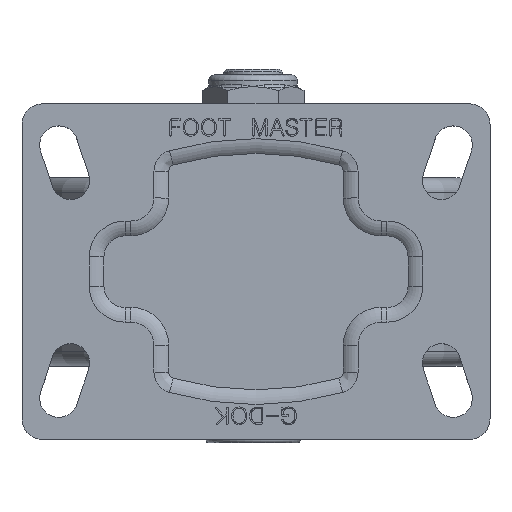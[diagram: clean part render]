
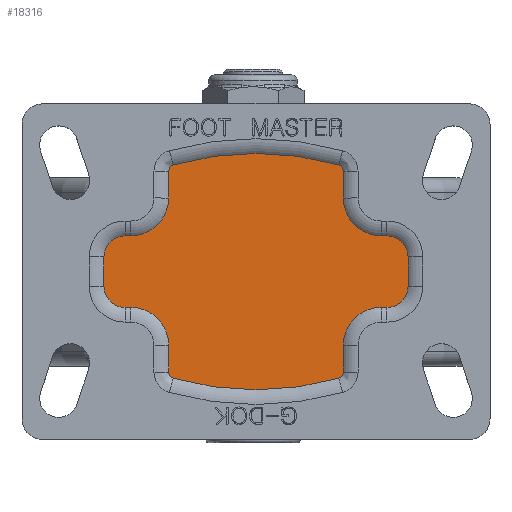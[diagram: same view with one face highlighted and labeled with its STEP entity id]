
A CAD part, top view. The second image highlights one B-rep face of the part: STEP entity #18316.
In plain terms, the highlighted planar face has unit normal (0, 0, 1).
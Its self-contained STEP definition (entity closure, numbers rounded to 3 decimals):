
#1757=LINE('',#34252,#3118);
#1759=LINE('',#34264,#3120);
#1761=LINE('',#34304,#3122);
#1763=LINE('',#34316,#3124);
#1765=LINE('',#34328,#3126);
#1767=LINE('',#34340,#3128);
#1769=LINE('',#34352,#3130);
#1771=LINE('',#34392,#3132);
#1773=LINE('',#34404,#3134);
#1775=LINE('',#34413,#3136);
#3118=VECTOR('',#22824,2.);
#3120=VECTOR('',#22838,9.164);
#3122=VECTOR('',#22864,9.164);
#3124=VECTOR('',#22878,2.);
#3126=VECTOR('',#22892,10.);
#3128=VECTOR('',#22906,2.);
#3130=VECTOR('',#22920,9.164);
#3132=VECTOR('',#22946,9.164);
#3134=VECTOR('',#22960,2.);
#3136=VECTOR('',#22972,10.);
#5353=FACE_OUTER_BOUND('',#6528,.T.);
#6528=EDGE_LOOP('',(#16853,#16854,#16855,#16856,#16857,#16858,#16859,#16860,
#16861,#16862,#16863,#16864,#16865,#16866,#16867,#16868,#16869,#16870,#16871,
#16872,#16873,#16874,#16875,#16876));
#7010=CIRCLE('',#19375,7.162);
#7014=CIRCLE('',#19381,12.838);
#7018=CIRCLE('',#19386,2.162);
#7021=CIRCLE('',#19390,102.662);
#7024=CIRCLE('',#19393,2.162);
#7028=CIRCLE('',#19399,12.838);
#7032=CIRCLE('',#19405,7.162);
#7036=CIRCLE('',#19411,7.162);
#7040=CIRCLE('',#19417,12.838);
#7044=CIRCLE('',#19422,2.162);
#7047=CIRCLE('',#19426,102.662);
#7050=CIRCLE('',#19429,2.162);
#7054=CIRCLE('',#19435,12.838);
#7058=CIRCLE('',#19441,7.162);
#8803=VERTEX_POINT('',#34240);
#8805=VERTEX_POINT('',#34244);
#8807=VERTEX_POINT('',#34250);
#8809=VERTEX_POINT('',#34256);
#8811=VERTEX_POINT('',#34262);
#8813=VERTEX_POINT('',#34276);
#8815=VERTEX_POINT('',#34282);
#8817=VERTEX_POINT('',#34296);
#8819=VERTEX_POINT('',#34302);
#8821=VERTEX_POINT('',#34308);
#8823=VERTEX_POINT('',#34314);
#8825=VERTEX_POINT('',#34320);
#8827=VERTEX_POINT('',#34326);
#8829=VERTEX_POINT('',#34332);
#8831=VERTEX_POINT('',#34338);
#8833=VERTEX_POINT('',#34344);
#8835=VERTEX_POINT('',#34350);
#8837=VERTEX_POINT('',#34364);
#8839=VERTEX_POINT('',#34370);
#8841=VERTEX_POINT('',#34384);
#8843=VERTEX_POINT('',#34390);
#8845=VERTEX_POINT('',#34396);
#8847=VERTEX_POINT('',#34402);
#8849=VERTEX_POINT('',#34408);
#11456=EDGE_CURVE('',#8803,#8805,#7010,.T.);
#11459=EDGE_CURVE('',#8805,#8807,#1757,.T.);
#11462=EDGE_CURVE('',#8807,#8809,#7014,.T.);
#11465=EDGE_CURVE('',#8809,#8811,#1759,.T.);
#11468=EDGE_CURVE('',#8811,#8813,#7018,.T.);
#11471=EDGE_CURVE('',#8813,#8815,#7021,.T.);
#11474=EDGE_CURVE('',#8815,#8817,#7024,.T.);
#11477=EDGE_CURVE('',#8817,#8819,#1761,.T.);
#11480=EDGE_CURVE('',#8819,#8821,#7028,.T.);
#11483=EDGE_CURVE('',#8821,#8823,#1763,.T.);
#11486=EDGE_CURVE('',#8823,#8825,#7032,.T.);
#11489=EDGE_CURVE('',#8825,#8827,#1765,.T.);
#11492=EDGE_CURVE('',#8827,#8829,#7036,.T.);
#11495=EDGE_CURVE('',#8829,#8831,#1767,.T.);
#11498=EDGE_CURVE('',#8831,#8833,#7040,.T.);
#11501=EDGE_CURVE('',#8833,#8835,#1769,.T.);
#11504=EDGE_CURVE('',#8835,#8837,#7044,.T.);
#11507=EDGE_CURVE('',#8837,#8839,#7047,.T.);
#11510=EDGE_CURVE('',#8839,#8841,#7050,.T.);
#11513=EDGE_CURVE('',#8841,#8843,#1771,.T.);
#11516=EDGE_CURVE('',#8843,#8845,#7054,.T.);
#11519=EDGE_CURVE('',#8845,#8847,#1773,.T.);
#11522=EDGE_CURVE('',#8847,#8849,#7058,.T.);
#11524=EDGE_CURVE('',#8849,#8803,#1775,.T.);
#16853=ORIENTED_EDGE('',*,*,#11468,.T.);
#16854=ORIENTED_EDGE('',*,*,#11471,.T.);
#16855=ORIENTED_EDGE('',*,*,#11474,.T.);
#16856=ORIENTED_EDGE('',*,*,#11477,.T.);
#16857=ORIENTED_EDGE('',*,*,#11480,.T.);
#16858=ORIENTED_EDGE('',*,*,#11483,.T.);
#16859=ORIENTED_EDGE('',*,*,#11486,.T.);
#16860=ORIENTED_EDGE('',*,*,#11489,.T.);
#16861=ORIENTED_EDGE('',*,*,#11492,.T.);
#16862=ORIENTED_EDGE('',*,*,#11495,.T.);
#16863=ORIENTED_EDGE('',*,*,#11498,.T.);
#16864=ORIENTED_EDGE('',*,*,#11501,.T.);
#16865=ORIENTED_EDGE('',*,*,#11504,.T.);
#16866=ORIENTED_EDGE('',*,*,#11507,.T.);
#16867=ORIENTED_EDGE('',*,*,#11510,.T.);
#16868=ORIENTED_EDGE('',*,*,#11513,.T.);
#16869=ORIENTED_EDGE('',*,*,#11516,.T.);
#16870=ORIENTED_EDGE('',*,*,#11519,.T.);
#16871=ORIENTED_EDGE('',*,*,#11522,.T.);
#16872=ORIENTED_EDGE('',*,*,#11524,.T.);
#16873=ORIENTED_EDGE('',*,*,#11456,.T.);
#16874=ORIENTED_EDGE('',*,*,#11459,.T.);
#16875=ORIENTED_EDGE('',*,*,#11462,.T.);
#16876=ORIENTED_EDGE('',*,*,#11465,.T.);
#17321=PLANE('',#19457);
#18316=ADVANCED_FACE('',(#5353),#17321,.T.);
#19375=AXIS2_PLACEMENT_3D('',#34246,#22817,#22818);
#19381=AXIS2_PLACEMENT_3D('',#34258,#22831,#22832);
#19386=AXIS2_PLACEMENT_3D('',#34278,#22843,#22844);
#19390=AXIS2_PLACEMENT_3D('',#34284,#22851,#22852);
#19393=AXIS2_PLACEMENT_3D('',#34298,#22857,#22858);
#19399=AXIS2_PLACEMENT_3D('',#34310,#22871,#22872);
#19405=AXIS2_PLACEMENT_3D('',#34322,#22885,#22886);
#19411=AXIS2_PLACEMENT_3D('',#34334,#22899,#22900);
#19417=AXIS2_PLACEMENT_3D('',#34346,#22913,#22914);
#19422=AXIS2_PLACEMENT_3D('',#34366,#22925,#22926);
#19426=AXIS2_PLACEMENT_3D('',#34372,#22933,#22934);
#19429=AXIS2_PLACEMENT_3D('',#34386,#22939,#22940);
#19435=AXIS2_PLACEMENT_3D('',#34398,#22953,#22954);
#19441=AXIS2_PLACEMENT_3D('',#34410,#22967,#22968);
#19457=AXIS2_PLACEMENT_3D('',#34464,#23013,#23014);
#22817=DIRECTION('center_axis',(0.,0.,1.));
#22818=DIRECTION('ref_axis',(1.,0.,0.));
#22824=DIRECTION('',(1.,0.,0.));
#22831=DIRECTION('center_axis',(0.,0.,-1.));
#22832=DIRECTION('ref_axis',(1.,0.,0.));
#22838=DIRECTION('',(0.,-1.,0.));
#22843=DIRECTION('center_axis',(0.,0.,1.));
#22844=DIRECTION('ref_axis',(1.,0.,0.));
#22851=DIRECTION('center_axis',(0.,0.,1.));
#22852=DIRECTION('ref_axis',(1.,0.,0.));
#22857=DIRECTION('center_axis',(0.,0.,1.));
#22858=DIRECTION('ref_axis',(1.,0.,0.));
#22864=DIRECTION('',(0.,1.,0.));
#22871=DIRECTION('center_axis',(0.,0.,-1.));
#22872=DIRECTION('ref_axis',(1.,0.,0.));
#22878=DIRECTION('',(1.,0.,0.));
#22885=DIRECTION('center_axis',(0.,0.,1.));
#22886=DIRECTION('ref_axis',(1.,0.,0.));
#22892=DIRECTION('',(0.,1.,0.));
#22899=DIRECTION('center_axis',(0.,0.,1.));
#22900=DIRECTION('ref_axis',(1.,0.,0.));
#22906=DIRECTION('',(-1.,0.,0.));
#22913=DIRECTION('center_axis',(0.,0.,-1.));
#22914=DIRECTION('ref_axis',(1.,0.,0.));
#22920=DIRECTION('',(0.,1.,0.));
#22925=DIRECTION('center_axis',(0.,0.,1.));
#22926=DIRECTION('ref_axis',(1.,0.,0.));
#22933=DIRECTION('center_axis',(0.,0.,1.));
#22934=DIRECTION('ref_axis',(1.,0.,0.));
#22939=DIRECTION('center_axis',(0.,0.,1.));
#22940=DIRECTION('ref_axis',(1.,0.,0.));
#22946=DIRECTION('',(0.,-1.,0.));
#22953=DIRECTION('center_axis',(0.,0.,-1.));
#22954=DIRECTION('ref_axis',(1.,0.,0.));
#22960=DIRECTION('',(-1.,0.,0.));
#22967=DIRECTION('center_axis',(0.,0.,1.));
#22968=DIRECTION('ref_axis',(1.,0.,0.));
#22972=DIRECTION('',(0.,-1.,0.));
#23013=DIRECTION('center_axis',(0.,0.,1.));
#23014=DIRECTION('ref_axis',(1.,0.,0.));
#34240=CARTESIAN_POINT('',(-51.662,-5.,2.5));
#34244=CARTESIAN_POINT('',(-44.5,-12.162,2.5));
#34246=CARTESIAN_POINT('Origin',(-44.5,-5.,2.5));
#34250=CARTESIAN_POINT('',(-42.5,-12.162,2.5));
#34252=CARTESIAN_POINT('',(-44.5,-12.162,2.5));
#34256=CARTESIAN_POINT('',(-29.662,-25.,2.5));
#34258=CARTESIAN_POINT('Origin',(-42.5,-25.,2.5));
#34262=CARTESIAN_POINT('',(-29.662,-34.164,2.5));
#34264=CARTESIAN_POINT('',(-29.662,-25.,2.5));
#34276=CARTESIAN_POINT('',(-28.092,-36.244,2.5));
#34278=CARTESIAN_POINT('Origin',(-27.5,-34.164,2.5));
#34282=CARTESIAN_POINT('',(28.092,-36.244,2.5));
#34284=CARTESIAN_POINT('Origin',(0.,62.5,2.5));
#34296=CARTESIAN_POINT('',(29.662,-34.164,2.5));
#34298=CARTESIAN_POINT('Origin',(27.5,-34.164,2.5));
#34302=CARTESIAN_POINT('',(29.662,-25.,2.5));
#34304=CARTESIAN_POINT('',(29.662,-34.164,2.5));
#34308=CARTESIAN_POINT('',(42.5,-12.162,2.5));
#34310=CARTESIAN_POINT('Origin',(42.5,-25.,2.5));
#34314=CARTESIAN_POINT('',(44.5,-12.162,2.5));
#34316=CARTESIAN_POINT('',(42.5,-12.162,2.5));
#34320=CARTESIAN_POINT('',(51.662,-5.,2.5));
#34322=CARTESIAN_POINT('Origin',(44.5,-5.,2.5));
#34326=CARTESIAN_POINT('',(51.662,5.,2.5));
#34328=CARTESIAN_POINT('',(51.662,-5.,2.5));
#34332=CARTESIAN_POINT('',(44.5,12.162,2.5));
#34334=CARTESIAN_POINT('Origin',(44.5,5.,2.5));
#34338=CARTESIAN_POINT('',(42.5,12.162,2.5));
#34340=CARTESIAN_POINT('',(44.5,12.162,2.5));
#34344=CARTESIAN_POINT('',(29.662,25.,2.5));
#34346=CARTESIAN_POINT('Origin',(42.5,25.,2.5));
#34350=CARTESIAN_POINT('',(29.662,34.164,2.5));
#34352=CARTESIAN_POINT('',(29.662,25.,2.5));
#34364=CARTESIAN_POINT('',(28.092,36.244,2.5));
#34366=CARTESIAN_POINT('Origin',(27.5,34.164,2.5));
#34370=CARTESIAN_POINT('',(-28.092,36.244,2.5));
#34372=CARTESIAN_POINT('Origin',(0.,-62.5,2.5));
#34384=CARTESIAN_POINT('',(-29.662,34.164,2.5));
#34386=CARTESIAN_POINT('Origin',(-27.5,34.164,2.5));
#34390=CARTESIAN_POINT('',(-29.662,25.,2.5));
#34392=CARTESIAN_POINT('',(-29.662,34.164,2.5));
#34396=CARTESIAN_POINT('',(-42.5,12.162,2.5));
#34398=CARTESIAN_POINT('Origin',(-42.5,25.,2.5));
#34402=CARTESIAN_POINT('',(-44.5,12.162,2.5));
#34404=CARTESIAN_POINT('',(-42.5,12.162,2.5));
#34408=CARTESIAN_POINT('',(-51.662,5.,2.5));
#34410=CARTESIAN_POINT('Origin',(-44.5,5.,2.5));
#34413=CARTESIAN_POINT('',(-51.662,5.,2.5));
#34464=CARTESIAN_POINT('Origin',(0.,0.,2.5));
